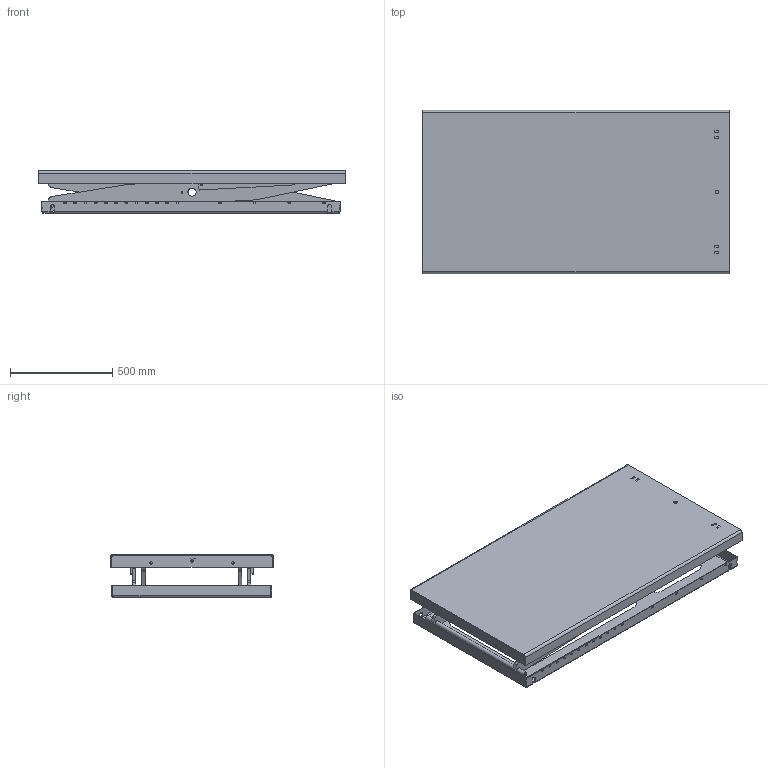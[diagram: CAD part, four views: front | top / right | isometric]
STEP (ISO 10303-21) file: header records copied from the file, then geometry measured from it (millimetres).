
FILE_DESCRIPTION(/* description */ ('CB 1500'),/* implementation_level */ '2;1');
FILE_NAME(/* name */ '\\EDMOFILE01\Users$\JOHSO\Desktop\36475_Collapsed.stp',/* time_stamp */ '2018-02-20T08:14:05+01:00',/* author */ ('johso'),/* organization */ (''),/* preprocessor_version */ 'ST-DEVELOPER v16.5',/* originating_system */ 'Autodesk Inventor 2017',/* authorisation */ '');
FILE_SCHEMA (('AUTOMOTIVE_DESIGN { 1 0 10303 214 3 1 1 }'));
Length unit declared in the file: millimetre
Products named in the file (28): 36475.tmp; 36467; 22215; 612889; 22216; 612837; 45338-2; 36468-2; 612838; 45338-1; 36468-1; 45028; 22214; 22214-1; 42744; 45339; 22214-7; 85955; 80131; 42394; 607662; 607660; 607661; 44577; 84006; 84210; 83245; 42746
Assembly tree (46 placements, depth 5):
  36475.tmp
    36467
      22215
        45339  x4
        612889
      22216
        612837
          36468-2  x2
          45338-2
        612838
          36468-1  x2
          45338-1
        45028
      22214
        22214-1
        42744  x2
        45339  x4
        22214-7
        85955
        80131  x4
        42394  x2
      607662  x2
        607660
        607661
      44577  x2
      84006  x2
      84210  x2
      83245  x2
    42746
Bounding box: 1500 x 800 x 210 mm (x, y, z)
Volume: 22185469.9 mm3; surface area: 6177474.7 mm2
Topology: 38 solids, 38 shells, 1184 faces, 3162 edges, 2067 vertices
Faces by surface type: plane 579, cylinder 533, cone 56, bspline 16
Full cylindrical faces by diameter (mm): 6.6 x4, 6.8 x4, 7.4 x2, 8 x4, 10 x2, 11.63 x4, 11.835 x2, 12.5 x6, 13.835 x1, 14 x2, 14.2 x2, 14.5 x8, 15 x2, 16 x2, 18.5 x1, 19 x1, 19.37 x2, 19.6 x2, 20 x2, 22 x2, 22.5 x2, 28 x2
Entity records: 26443 total; most frequent: CARTESIAN_POINT 4990, DIRECTION 4459, ORIENTED_EDGE 4236, EDGE_CURVE 2118, AXIS2_PLACEMENT_3D 1566, VERTEX_POINT 1411, LINE 1327, VECTOR 1327
